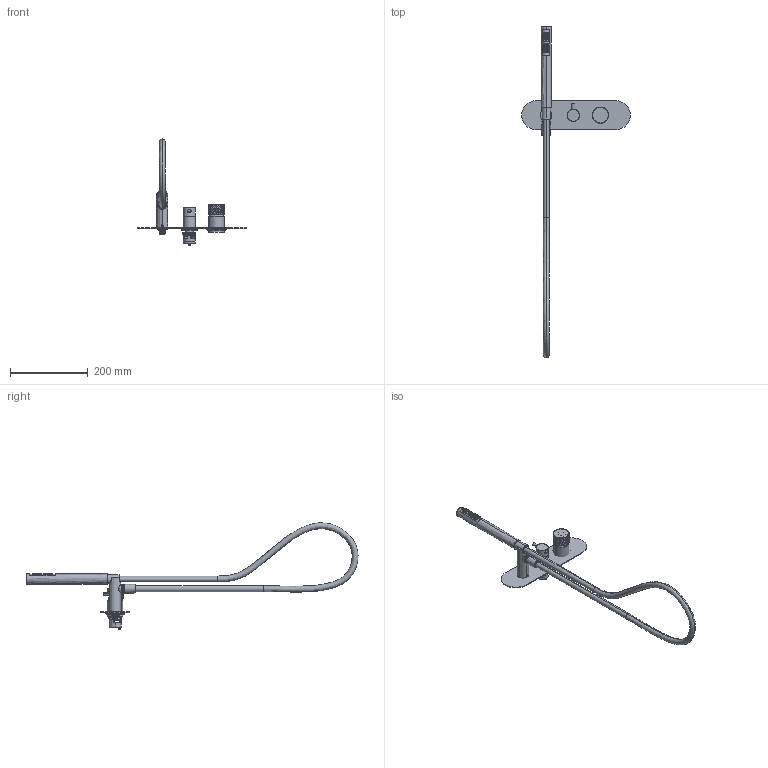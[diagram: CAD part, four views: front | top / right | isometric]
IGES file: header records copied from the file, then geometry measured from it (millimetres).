
Start section:  PTC IGES file: 12519sv3_sw0001.igs
Global section: file name: 12519sv3_sw0001.igs; native system: Creo Parametric by PTC Inc.; preprocessor: 2022014; author: volponeff; organization: Unknown; date: 20230601.135027; units: millimetre
Bounding box: 280 x 856.74 x 273.8 mm (x, y, z)
Surface area: 174882.6 mm2 (no closed solid volume)
Topology: 0 solids, 0 shells, 542 faces, 2694 edges, 2690 vertices
Faces by surface type: revolution 327, bspline 215
